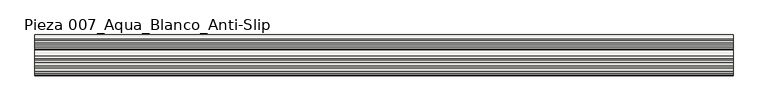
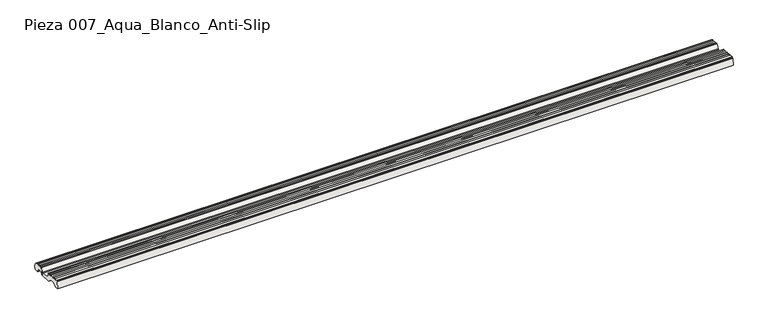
"""IFC4 building model written with IfcOpenShell, lengths in millimetres: slab geometry, ROSA GRES_007 : Pieza 007_Aqua_Blanco_Anti-Slip."""

from ifc_helpers import new_model, si_unit, point, frame, frame_2d, origin, place, context, project, spatial, polyline, circle_curve, trimmed, segment, composite_curve, outline, extrude, source, transform, mapped, element, save


def pieza_007_aqua_blanco_anti_slip_3135474a(model_context):
    return source(origin(), model_context, "Body", "SweptSolid", [
        extrude(outline(composite_curve([segment(trimmed(circle_curve(frame_2d((-25.9545763, 173.0767428)), 11.6464304), [point((-14.3742659, 174.3159971))], [point((-37.1820416, 176.172444))], True, "CARTESIAN"), True, "CONTINUOUS"), segment(polyline([(-37.1820416, 176.172444), (-33.8762309, 200.4746837), (-29.9345538, 200.1538709)]), True, "CONTINUOUS"), segment(trimmed(circle_curve(frame_2d((-27.3971937, 201.142641)), 2.7232081), [point((-29.9345538, 200.1538709))], [point((-24.7247274, 200.6193952))], True, "CARTESIAN"), True, "CONTINUOUS"), segment(trimmed(circle_curve(frame_2d((-20.3008643, 202.7650351)), 4.9167404), [point((-24.7247274, 200.6193952))], [point((-16.9364731, 199.1796191))], True, "CARTESIAN"), True, "CONTINUOUS"), segment(polyline([(-16.9364731, 199.1796191), (-12.7748841, 198.875801)]), True, "CONTINUOUS"), segment(trimmed(circle_curve(frame_2d((-15.1536138, 183.7870899)), 15.2750633), [point((-12.7748841, 198.875801))], [point((0.0710994, 182.547869))], False, "CARTESIAN"), True, "CONTINUOUS"), segment(polyline([(0.0710994, 182.547869), (-0.6896004, 173.202129), (-14.3742659, 174.3159971)]), True, "CONTINUOUS")], self_intersect=False)), frame((0.0, 0.0, 0.0), z_axis=(1.0, 0.0, 0.0), x_axis=(0.0, 1.0, 0.0)), (0.0, 0.0, 1.0), 2030.0265886),
        extrude(outline(composite_curve([segment(trimmed(circle_curve(frame_2d((-91.1625174, 167.3774726)), 22.5372595), [point((-71.8498608, 178.9942432))], [point((-108.342302, 181.9645582))], True, "CARTESIAN"), True, "CONTINUOUS"), segment(polyline([(-108.342302, 181.9645582), (-119.2900344, 182.8556525), (-117.4809059, 205.0820876), (-115.5338707, 204.9236084), (-115.3491545, 207.1930072), (-113.0660814, 207.0070959)]), True, "CONTINUOUS"), segment(trimmed(circle_curve(frame_2d((-109.1074243, 209.7932705)), 4.8408403), [point((-113.0660814, 207.0070959))], [point((-105.2742048, 206.836894))], True, "CARTESIAN"), True, "CONTINUOUS"), segment(trimmed(circle_curve(frame_2d((-100.9933064, 209.1504161)), 4.8660534), [point((-105.2742048, 206.836894))], [point((-97.1292049, 206.1928503))], True, "CARTESIAN"), True, "CONTINUOUS"), segment(trimmed(circle_curve(frame_2d((-92.9342908, 208.0451437)), 4.5856619), [point((-97.1292049, 206.1928503))], [point((-89.0833894, 205.555394))], True, "CARTESIAN"), True, "CONTINUOUS"), segment(trimmed(circle_curve(frame_2d((-84.8780848, 207.3839748)), 4.5856619), [point((-89.0833894, 205.555394))], [point((-81.0271834, 204.8942251))], True, "CARTESIAN"), True, "CONTINUOUS"), segment(trimmed(circle_curve(frame_2d((-76.8218788, 206.722806)), 4.5856619), [point((-81.0271834, 204.8942251))], [point((-73.3820924, 203.6902881))], True, "CARTESIAN"), True, "CONTINUOUS"), segment(polyline([(-73.3820924, 203.6902881), (-69.6579726, 203.3871621), (-69.3023399, 198.236672)]), True, "CONTINUOUS"), segment(trimmed(circle_curve(frame_2d((-57.0579989, 199.0821231)), 12.2734948), [point((-69.3023399, 198.236672))], [point((-61.867532, 187.7902205))], True, "CARTESIAN"), True, "CONTINUOUS"), segment(polyline([(-61.867532, 187.7902205), (-43.8250834, 186.3216491)]), True, "CONTINUOUS"), segment(trimmed(circle_curve(frame_2d((-43.5817022, 189.3117604)), 3.0), [point((-43.8250834, 186.3216491))], [point((-40.9402045, 187.8896178))], True, "CARTESIAN"), True, "CONTINUOUS"), segment(trimmed(circle_curve(frame_2d((-106.9597263, 233.2212806)), 80.084561), [point((-40.9402045, 187.8896178))], [point((-33.8762309, 200.4746837))], True, "CARTESIAN"), True, "CONTINUOUS"), segment(polyline([(-33.8762309, 200.4746837), (-37.1820416, 176.172444), (-71.8498608, 178.9942432)]), True, "CONTINUOUS")], self_intersect=False)), frame((0.0, 0.0, 0.0), z_axis=(1.0, 0.0, 0.0), x_axis=(0.0, 1.0, 0.0)), (0.0, 0.0, 1.0), 2030.0265886),
    ])


if __name__ == "__main__":
    model = new_model("IFC4")
    model_context = context("Model", 3, world=origin())
    ifc_project = project(units=[si_unit("LENGTHUNIT", "METRE", prefix="MILLI")], contexts=[model_context])
    site = spatial("IfcSite", under=ifc_project)
    building = spatial("IfcBuilding", under=site)
    placement = place(None, origin())
    pieza_007_aqua_blanco_anti_slip_shape = pieza_007_aqua_blanco_anti_slip_3135474a(model_context)
    element("IfcSlab", 1, ObjectType="ROSA GRES_007 : Pieza 007_Aqua_Blanco_Anti-Slip", at=placement, inside=building, context=model_context, shape_type="MappedRepresentation", body=[
        mapped(pieza_007_aqua_blanco_anti_slip_shape, transform((0.0, 0.0, 0.0), x_axis=(1.0, 0.0, 0.0), y_axis=(0.0, 1.0, 0.0), z_axis=(0.0, 0.0, 1.0))),
    ])
    save(model, "model.ifc")
